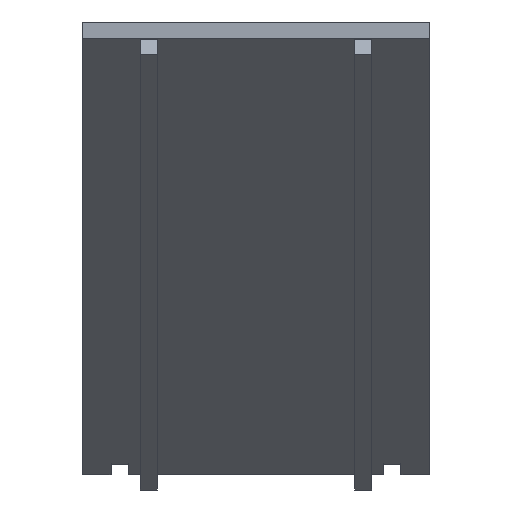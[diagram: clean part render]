
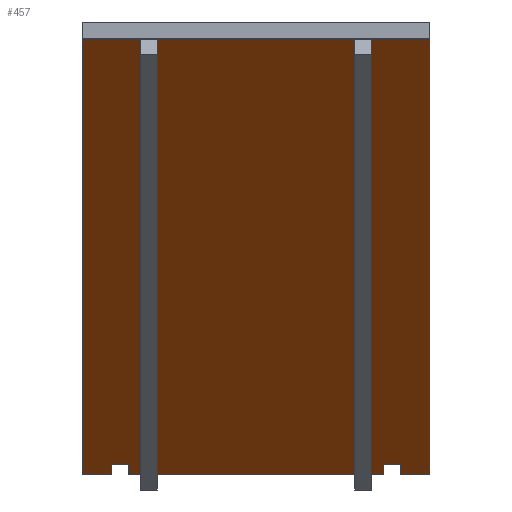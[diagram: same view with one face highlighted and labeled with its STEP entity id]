
A CAD part, top view. The second image highlights one B-rep face of the part: STEP entity #457.
In plain terms, the highlighted planar face has unit normal (0, -0.866, 0.5).
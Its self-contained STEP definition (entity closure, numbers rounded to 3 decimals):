
#70=CARTESIAN_POINT('Vertex',(560.98,303.218,-272.)) ;
#75=CARTESIAN_POINT('Line Origine',(535.98,303.218,-272.)) ;
#79=CARTESIAN_POINT('Vertex',(510.98,303.218,-272.)) ;
#105=CARTESIAN_POINT('Vertex',(1110.98,303.218,-272.)) ;
#110=CARTESIAN_POINT('Line Origine',(1085.98,303.218,-272.)) ;
#114=CARTESIAN_POINT('Vertex',(1060.98,303.218,-272.)) ;
#140=CARTESIAN_POINT('Vertex',(1030.98,303.218,-272.)) ;
#145=CARTESIAN_POINT('Line Origine',(810.98,303.218,-272.)) ;
#149=CARTESIAN_POINT('Vertex',(590.98,303.218,-272.)) ;
#257=CARTESIAN_POINT('Vertex',(590.98,320.539,-242.)) ;
#260=CARTESIAN_POINT('Line Origine',(590.98,311.878,-257.)) ;
#277=CARTESIAN_POINT('Line Origine',(575.98,320.539,-242.)) ;
#281=CARTESIAN_POINT('Vertex',(560.98,320.539,-242.)) ;
#301=CARTESIAN_POINT('Line Origine',(560.98,311.878,-257.)) ;
#322=CARTESIAN_POINT('Vertex',(510.98,1053.774,1028.)) ;
#325=CARTESIAN_POINT('Line Origine',(510.98,678.496,378.)) ;
#346=CARTESIAN_POINT('Vertex',(1110.98,1053.774,1028.)) ;
#349=CARTESIAN_POINT('Line Origine',(810.98,1053.774,1028.)) ;
#366=CARTESIAN_POINT('Line Origine',(1110.98,678.496,378.)) ;
#387=CARTESIAN_POINT('Vertex',(1060.98,320.539,-242.)) ;
#390=CARTESIAN_POINT('Line Origine',(1060.98,311.878,-257.)) ;
#402=CARTESIAN_POINT('Line Origine',(1045.98,320.539,-242.)) ;
#406=CARTESIAN_POINT('Vertex',(1030.98,320.539,-242.)) ;
#426=CARTESIAN_POINT('Line Origine',(1030.98,311.878,-257.)) ;
#438=CARTESIAN_POINT('Axis2P3D Location',(510.98,303.218,-272.)) ;
#76=DIRECTION('Vector Direction',(1.,0.,0.)) ;
#111=DIRECTION('Vector Direction',(1.,0.,0.)) ;
#146=DIRECTION('Vector Direction',(1.,0.,0.)) ;
#261=DIRECTION('Vector Direction',(0.,0.5,0.866)) ;
#278=DIRECTION('Vector Direction',(1.,0.,0.)) ;
#302=DIRECTION('Vector Direction',(0.,0.5,0.866)) ;
#326=DIRECTION('Vector Direction',(0.,0.5,0.866)) ;
#350=DIRECTION('Vector Direction',(1.,0.,0.)) ;
#367=DIRECTION('Vector Direction',(0.,0.5,0.866)) ;
#391=DIRECTION('Vector Direction',(0.,0.5,0.866)) ;
#403=DIRECTION('Vector Direction',(1.,0.,0.)) ;
#427=DIRECTION('Vector Direction',(0.,0.5,0.866)) ;
#439=DIRECTION('Axis2P3D Direction',(0.,0.866,-0.5)) ;
#440=DIRECTION('Axis2P3D XDirection',(1.,0.,0.)) ;
#441=AXIS2_PLACEMENT_3D('Plane Axis2P3D',#438,#439,#440) ;
#444=ORIENTED_EDGE('',*,*,#116,.F.) ;
#445=ORIENTED_EDGE('',*,*,#370,.F.) ;
#446=ORIENTED_EDGE('',*,*,#353,.F.) ;
#447=ORIENTED_EDGE('',*,*,#329,.F.) ;
#448=ORIENTED_EDGE('',*,*,#81,.F.) ;
#449=ORIENTED_EDGE('',*,*,#305,.F.) ;
#450=ORIENTED_EDGE('',*,*,#283,.F.) ;
#451=ORIENTED_EDGE('',*,*,#264,.F.) ;
#452=ORIENTED_EDGE('',*,*,#151,.F.) ;
#453=ORIENTED_EDGE('',*,*,#430,.F.) ;
#454=ORIENTED_EDGE('',*,*,#408,.F.) ;
#455=ORIENTED_EDGE('',*,*,#394,.F.) ;
#77=VECTOR('Line Direction',#76,1.) ;
#112=VECTOR('Line Direction',#111,1.) ;
#147=VECTOR('Line Direction',#146,1.) ;
#262=VECTOR('Line Direction',#261,1.) ;
#279=VECTOR('Line Direction',#278,1.) ;
#303=VECTOR('Line Direction',#302,1.) ;
#327=VECTOR('Line Direction',#326,1.) ;
#351=VECTOR('Line Direction',#350,1.) ;
#368=VECTOR('Line Direction',#367,1.) ;
#392=VECTOR('Line Direction',#391,1.) ;
#404=VECTOR('Line Direction',#403,1.) ;
#428=VECTOR('Line Direction',#427,1.) ;
#457=ADVANCED_FACE('',(#456),#442,.F.) ;
#81=EDGE_CURVE('',#71,#80,#78,.F.) ;
#116=EDGE_CURVE('',#106,#115,#113,.F.) ;
#151=EDGE_CURVE('',#141,#150,#148,.F.) ;
#264=EDGE_CURVE('',#150,#258,#263,.T.) ;
#283=EDGE_CURVE('',#258,#282,#280,.F.) ;
#305=EDGE_CURVE('',#282,#71,#304,.F.) ;
#329=EDGE_CURVE('',#80,#323,#328,.T.) ;
#353=EDGE_CURVE('',#323,#347,#352,.T.) ;
#370=EDGE_CURVE('',#347,#106,#369,.F.) ;
#394=EDGE_CURVE('',#115,#388,#393,.T.) ;
#408=EDGE_CURVE('',#388,#407,#405,.F.) ;
#430=EDGE_CURVE('',#407,#141,#429,.F.) ;
#443=EDGE_LOOP('',(#444,#445,#446,#447,#448,#449,#450,#451,#452,#453,#454,#455)) ;
#456=FACE_OUTER_BOUND('',#443,.T.) ;
#78=LINE('Line',#75,#77) ;
#113=LINE('Line',#110,#112) ;
#148=LINE('Line',#145,#147) ;
#263=LINE('Line',#260,#262) ;
#280=LINE('Line',#277,#279) ;
#304=LINE('Line',#301,#303) ;
#328=LINE('Line',#325,#327) ;
#352=LINE('Line',#349,#351) ;
#369=LINE('Line',#366,#368) ;
#393=LINE('Line',#390,#392) ;
#405=LINE('Line',#402,#404) ;
#429=LINE('Line',#426,#428) ;
#442=PLANE('Plane',#441) ;
#71=VERTEX_POINT('',#70) ;
#80=VERTEX_POINT('',#79) ;
#106=VERTEX_POINT('',#105) ;
#115=VERTEX_POINT('',#114) ;
#141=VERTEX_POINT('',#140) ;
#150=VERTEX_POINT('',#149) ;
#258=VERTEX_POINT('',#257) ;
#282=VERTEX_POINT('',#281) ;
#323=VERTEX_POINT('',#322) ;
#347=VERTEX_POINT('',#346) ;
#388=VERTEX_POINT('',#387) ;
#407=VERTEX_POINT('',#406) ;
